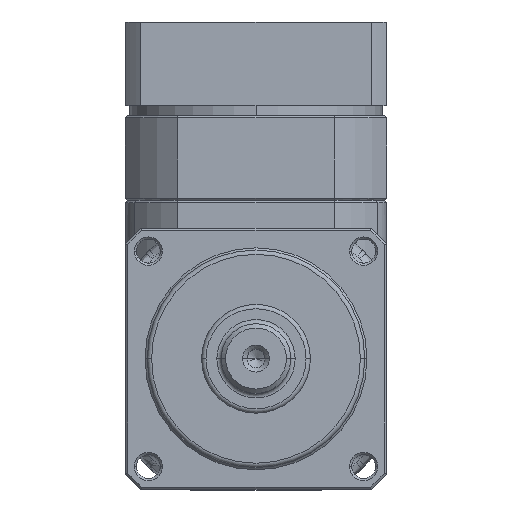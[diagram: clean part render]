
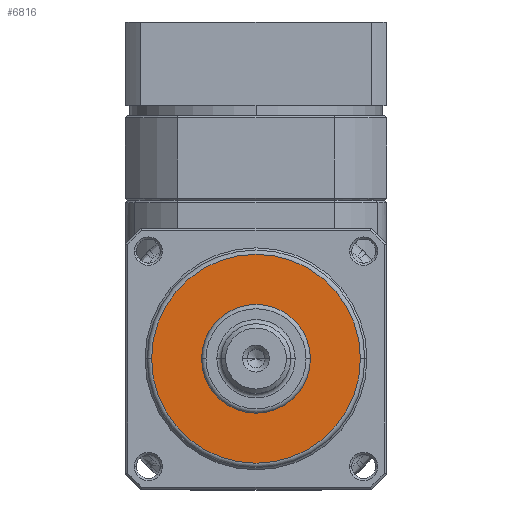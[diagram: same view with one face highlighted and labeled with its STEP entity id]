
A CAD part, top view. The second image highlights one B-rep face of the part: STEP entity #6816.
In plain terms, the highlighted planar face has unit normal (0, 0, 1).
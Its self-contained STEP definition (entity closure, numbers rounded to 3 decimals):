
#173 = FACE_OUTER_BOUND ( 'NONE', #11222, .T. ) ;
#1049 = FACE_BOUND ( 'NONE', #5669, .T. ) ;
#1791 = CIRCLE ( 'NONE', #5855, 12.5 ) ;
#2653 = CARTESIAN_POINT ( 'NONE',  ( -12.5, 0., 13. ) ) ;
#2847 = DIRECTION ( 'NONE',  ( 1., 0., 0. ) ) ;
#2937 = ORIENTED_EDGE ( 'NONE', *, *, #6689, .F. ) ;
#2979 = CARTESIAN_POINT ( 'NONE',  ( 0., 0., 13. ) ) ;
#3143 = EDGE_CURVE ( 'NONE', #3953, #10717, #9156, .T. ) ;
#3253 = DIRECTION ( 'NONE',  ( 1., 0., 0. ) ) ;
#3323 = ORIENTED_EDGE ( 'NONE', *, *, #6452, .F. ) ;
#3438 = ORIENTED_EDGE ( 'NONE', *, *, #9304, .T. ) ;
#3714 = PLANE ( 'NONE',  #8640 ) ;
#3953 = VERTEX_POINT ( 'NONE', #5095 ) ;
#4079 = DIRECTION ( 'NONE',  ( 1., 0., 0. ) ) ;
#4387 = AXIS2_PLACEMENT_3D ( 'NONE', #8563, #5100, #5167 ) ;
#5095 = CARTESIAN_POINT ( 'NONE',  ( -24., 0., 13. ) ) ;
#5100 = DIRECTION ( 'NONE',  ( 0., 0., 1. ) ) ;
#5167 = DIRECTION ( 'NONE',  ( 1., 0., 0. ) ) ;
#5176 = ORIENTED_EDGE ( 'NONE', *, *, #3143, .T. ) ;
#5669 = EDGE_LOOP ( 'NONE', ( #2937, #3323 ) ) ;
#5855 = AXIS2_PLACEMENT_3D ( 'NONE', #2979, #9223, #8408 ) ;
#6053 = CARTESIAN_POINT ( 'NONE',  ( 0., 0., 13. ) ) ;
#6452 = EDGE_CURVE ( 'NONE', #10874, #9830, #1791, .T. ) ;
#6677 = DIRECTION ( 'NONE',  ( 0., 0., 1. ) ) ;
#6689 = EDGE_CURVE ( 'NONE', #9830, #10874, #9010, .T. ) ;
#6748 = AXIS2_PLACEMENT_3D ( 'NONE', #6053, #6677, #4079 ) ;
#6816 = ADVANCED_FACE ( 'NONE', ( #1049, #173 ), #3714, .T. ) ;
#6986 = AXIS2_PLACEMENT_3D ( 'NONE', #7779, #11173, #3253 ) ;
#7240 = CARTESIAN_POINT ( 'NONE',  ( 0., 0., 13. ) ) ;
#7610 = CARTESIAN_POINT ( 'NONE',  ( 12.5, 0., 13. ) ) ;
#7779 = CARTESIAN_POINT ( 'NONE',  ( 0., 0., 13. ) ) ;
#8408 = DIRECTION ( 'NONE',  ( 1., 0., 0. ) ) ;
#8563 = CARTESIAN_POINT ( 'NONE',  ( 0., 0., 13. ) ) ;
#8640 = AXIS2_PLACEMENT_3D ( 'NONE', #7240, #10764, #2847 ) ;
#9010 = CIRCLE ( 'NONE', #6986, 12.5 ) ;
#9156 = CIRCLE ( 'NONE', #6748, 24. ) ;
#9223 = DIRECTION ( 'NONE',  ( 0., 0., 1. ) ) ;
#9304 = EDGE_CURVE ( 'NONE', #10717, #3953, #10491, .T. ) ;
#9830 = VERTEX_POINT ( 'NONE', #2653 ) ;
#10491 = CIRCLE ( 'NONE', #4387, 24. ) ;
#10717 = VERTEX_POINT ( 'NONE', #10793 ) ;
#10764 = DIRECTION ( 'NONE',  ( 0., 0., 1. ) ) ;
#10793 = CARTESIAN_POINT ( 'NONE',  ( 24., 0., 13. ) ) ;
#10874 = VERTEX_POINT ( 'NONE', #7610 ) ;
#11173 = DIRECTION ( 'NONE',  ( 0., 0., 1. ) ) ;
#11222 = EDGE_LOOP ( 'NONE', ( #3438, #5176 ) ) ;
